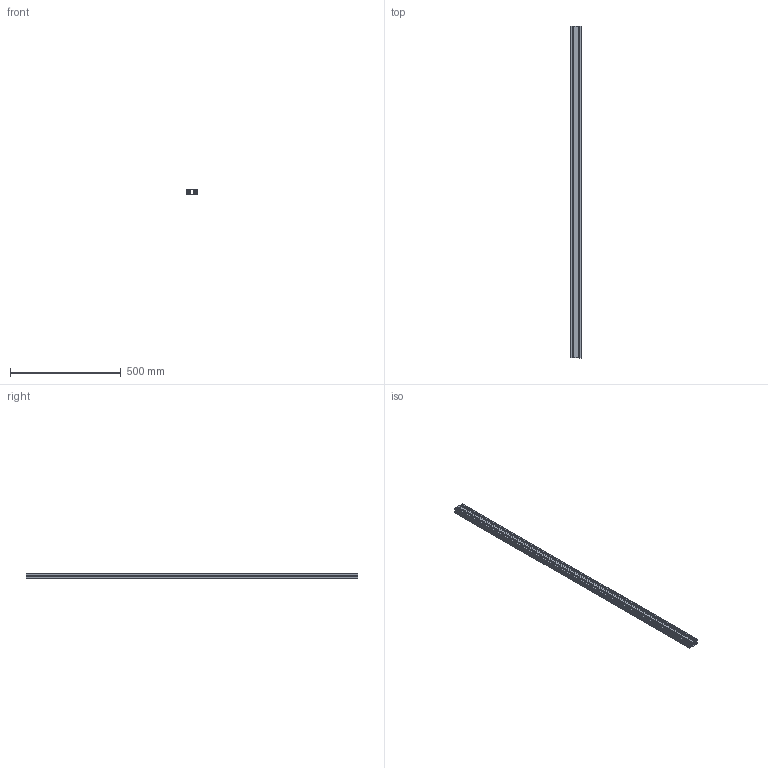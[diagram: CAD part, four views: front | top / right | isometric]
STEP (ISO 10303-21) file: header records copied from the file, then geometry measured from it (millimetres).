
FILE_DESCRIPTION (( 'STEP AP214' ), '1' );
FILE_NAME ('PEP5025-1500.STEP', '2019-10-30T01:21:29', ( '微软用户' ), ( '微软中国' ), 'SwSTEP 2.0', 'SolidWorks 2016', '' );
FILE_SCHEMA (( 'AUTOMOTIVE_DESIGN' ));
Length unit declared in the file: millimetre
Products named in the file (1): PEP5025-1500
Bounding box: 50 x 1500 x 25 mm (x, y, z)
Volume: 651594.9 mm3; surface area: 665055.8 mm2
Topology: 1 solids, 1 shells, 204 faces, 606 edges, 404 vertices
Faces by surface type: plane 110, cylinder 94
Entity records: 9184 total; most frequent: CARTESIAN_POINT 1215, ORIENTED_EDGE 1212, DIRECTION 1204, EDGE_CURVE 606, LINE 418, VECTOR 418, VERTEX_POINT 404, AXIS2_PLACEMENT_3D 393
